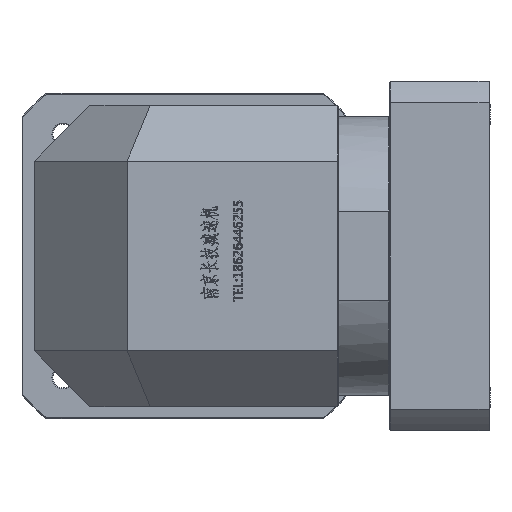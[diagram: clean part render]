
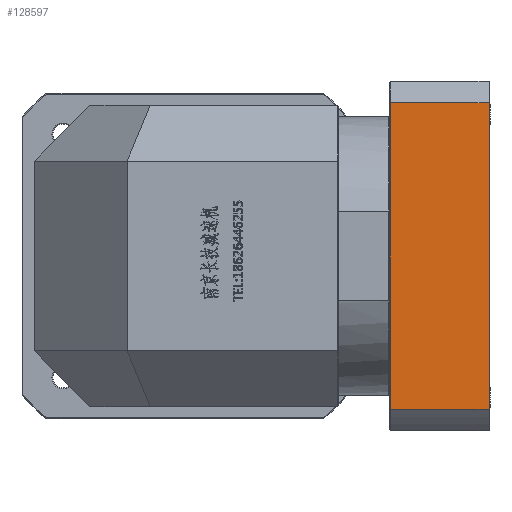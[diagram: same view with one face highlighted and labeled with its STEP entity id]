
A CAD part, left-side view. The second image highlights one B-rep face of the part: STEP entity #128597.
In plain terms, the highlighted planar face has unit normal (-1, 0, 0).
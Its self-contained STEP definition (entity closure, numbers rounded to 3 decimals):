
#2175 = VECTOR ( 'NONE', #12835, 1000. ) ;
#2378 = DIRECTION ( 'NONE',  ( 0., 0., -1. ) ) ;
#5155 = ORIENTED_EDGE ( 'NONE', *, *, #149628, .F. ) ;
#6156 = CARTESIAN_POINT ( 'NONE',  ( -142.04, -186.487, 182.693 ) ) ;
#12835 = DIRECTION ( 'NONE',  ( 0., -1., 0. ) ) ;
#18816 = CARTESIAN_POINT ( 'NONE',  ( -142.04, -239.487, 171.089 ) ) ;
#25737 = ORIENTED_EDGE ( 'NONE', *, *, #118023, .F. ) ;
#28634 = PLANE ( 'NONE',  #99238 ) ;
#33074 = LINE ( 'NONE', #18816, #53290 ) ;
#33395 = LINE ( 'NONE', #59391, #2175 ) ;
#35988 = ORIENTED_EDGE ( 'NONE', *, *, #90344, .F. ) ;
#39602 = VERTEX_POINT ( 'NONE', #6156 ) ;
#41393 = CARTESIAN_POINT ( 'NONE',  ( -142.04, -239.987, 171.089 ) ) ;
#41609 = LINE ( 'NONE', #120276, #109373 ) ;
#42700 = CARTESIAN_POINT ( 'NONE',  ( -142.04, -239.487, 182.693 ) ) ;
#49879 = EDGE_CURVE ( 'NONE', #67841, #39602, #41609, .T. ) ;
#53290 = VECTOR ( 'NONE', #124355, 1000. ) ;
#57444 = CARTESIAN_POINT ( 'NONE',  ( -142.04, -239.487, 347.484 ) ) ;
#59391 = CARTESIAN_POINT ( 'NONE',  ( -142.04, -239.987, 347.484 ) ) ;
#59946 = VECTOR ( 'NONE', #144000, 1000. ) ;
#67841 = VERTEX_POINT ( 'NONE', #142923 ) ;
#85733 = LINE ( 'NONE', #145023, #59946 ) ;
#90344 = EDGE_CURVE ( 'NONE', #67841, #139600, #33395, .T. ) ;
#99238 = AXIS2_PLACEMENT_3D ( 'NONE', #41393, #122368, #134191 ) ;
#109373 = VECTOR ( 'NONE', #2378, 1000. ) ;
#110136 = EDGE_LOOP ( 'NONE', ( #35988, #133088, #5155, #25737 ) ) ;
#118023 = EDGE_CURVE ( 'NONE', #139600, #132658, #33074, .T. ) ;
#120276 = CARTESIAN_POINT ( 'NONE',  ( -142.04, -186.487, 171.089 ) ) ;
#122368 = DIRECTION ( 'NONE',  ( 1., 0., 0. ) ) ;
#124355 = DIRECTION ( 'NONE',  ( 0., 0., -1. ) ) ;
#128597 = ADVANCED_FACE ( 'NONE', ( #148158 ), #28634, .F. ) ;
#132658 = VERTEX_POINT ( 'NONE', #42700 ) ;
#133088 = ORIENTED_EDGE ( 'NONE', *, *, #49879, .T. ) ;
#134191 = DIRECTION ( 'NONE',  ( 0., 1., 0. ) ) ;
#139600 = VERTEX_POINT ( 'NONE', #57444 ) ;
#142923 = CARTESIAN_POINT ( 'NONE',  ( -142.04, -186.487, 347.484 ) ) ;
#144000 = DIRECTION ( 'NONE',  ( 0., 1., 0. ) ) ;
#145023 = CARTESIAN_POINT ( 'NONE',  ( -142.04, 171.102, 182.693 ) ) ;
#148158 = FACE_OUTER_BOUND ( 'NONE', #110136, .T. ) ;
#149628 = EDGE_CURVE ( 'NONE', #132658, #39602, #85733, .T. ) ;
